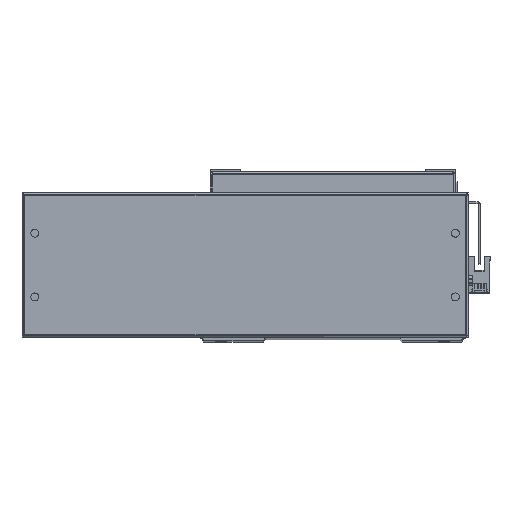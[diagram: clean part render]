
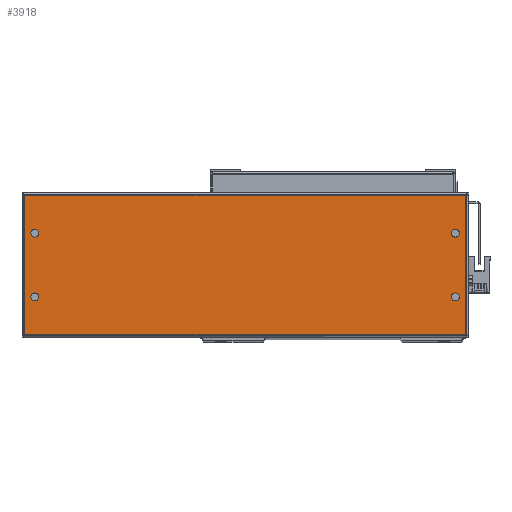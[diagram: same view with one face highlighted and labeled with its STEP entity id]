
A CAD part, top view. The second image highlights one B-rep face of the part: STEP entity #3918.
In plain terms, the highlighted planar face has unit normal (0, 0, 1) as drawn and (0, 1, 0) by its records, which use the part's own axes.
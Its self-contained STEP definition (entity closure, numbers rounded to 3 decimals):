
#108 = CIRCLE ( 'NONE', #19192, 2.5 ) ;
#545 = CARTESIAN_POINT ( 'NONE',  ( -103.446, 59., 53.3 ) ) ;
#1175 = DIRECTION ( 'NONE',  ( 0., 0., 1. ) ) ;
#2133 = DIRECTION ( 'NONE',  ( 0., 1., 0. ) ) ;
#2180 = CARTESIAN_POINT ( 'NONE',  ( 35., 59., 9.5 ) ) ;
#2510 = CARTESIAN_POINT ( 'NONE',  ( -97., 59., -10.5 ) ) ;
#2738 = CARTESIAN_POINT ( 'NONE',  ( -97., 59., 27. ) ) ;
#2877 = AXIS2_PLACEMENT_3D ( 'NONE', #23342, #10895, #28824 ) ;
#3841 = AXIS2_PLACEMENT_3D ( 'NONE', #14803, #2133, #18017 ) ;
#3918 = ADVANCED_FACE ( 'NONE', ( #33305, #27982, #22499, #7114, #22324 ), #17571, .T. ) ;
#4228 = ORIENTED_EDGE ( 'NONE', *, *, #32698, .F. ) ;
#4271 = ORIENTED_EDGE ( 'NONE', *, *, #20016, .T. ) ;
#4412 = ORIENTED_EDGE ( 'NONE', *, *, #18490, .T. ) ;
#4739 = CARTESIAN_POINT ( 'NONE',  ( 173.3, 59., 53.3 ) ) ;
#5275 = ORIENTED_EDGE ( 'NONE', *, *, #7933, .F. ) ;
#5397 = EDGE_LOOP ( 'NONE', ( #5275, #10579 ) ) ;
#5904 = VERTEX_POINT ( 'NONE', #17826 ) ;
#6469 = LINE ( 'NONE', #545, #18000 ) ;
#6557 = VECTOR ( 'NONE', #10893, 1000. ) ;
#6676 = CARTESIAN_POINT ( 'NONE',  ( 167., 59., 27. ) ) ;
#6896 = DIRECTION ( 'NONE',  ( 0., 1., 0. ) ) ;
#7114 = FACE_BOUND ( 'NONE', #14667, .T. ) ;
#7346 = ORIENTED_EDGE ( 'NONE', *, *, #30987, .T. ) ;
#7643 = EDGE_LOOP ( 'NONE', ( #33803, #4228 ) ) ;
#7669 = ORIENTED_EDGE ( 'NONE', *, *, #31424, .F. ) ;
#7933 = EDGE_CURVE ( 'NONE', #27407, #14886, #15414, .T. ) ;
#8659 = EDGE_CURVE ( 'NONE', #5904, #25570, #12766, .T. ) ;
#8961 = ORIENTED_EDGE ( 'NONE', *, *, #21575, .F. ) ;
#9509 = AXIS2_PLACEMENT_3D ( 'NONE', #2180, #9535, #32987 ) ;
#9535 = DIRECTION ( 'NONE',  ( 0., 1., 0. ) ) ;
#10403 = ORIENTED_EDGE ( 'NONE', *, *, #8659, .F. ) ;
#10579 = ORIENTED_EDGE ( 'NONE', *, *, #18057, .F. ) ;
#10732 = CARTESIAN_POINT ( 'NONE',  ( 167., 59., -8. ) ) ;
#10773 = CARTESIAN_POINT ( 'NONE',  ( -103.3, 59., 53.3 ) ) ;
#10893 = DIRECTION ( 'NONE',  ( 0., 0., -1. ) ) ;
#10895 = DIRECTION ( 'NONE',  ( 0., 1., 0. ) ) ;
#11412 = CARTESIAN_POINT ( 'NONE',  ( -97., 59., 29.5 ) ) ;
#11708 = DIRECTION ( 'NONE',  ( 0., 0., 1. ) ) ;
#12217 = EDGE_CURVE ( 'NONE', #28814, #16324, #22696, .T. ) ;
#12425 = VERTEX_POINT ( 'NONE', #20772 ) ;
#12711 = CARTESIAN_POINT ( 'NONE',  ( 173.446, 59., -34.3 ) ) ;
#12766 = CIRCLE ( 'NONE', #28569, 2.5 ) ;
#13043 = DIRECTION ( 'NONE',  ( 0., 0., 1. ) ) ;
#13362 = ORIENTED_EDGE ( 'NONE', *, *, #27023, .T. ) ;
#13448 = AXIS2_PLACEMENT_3D ( 'NONE', #11412, #23870, #1175 ) ;
#14626 = CARTESIAN_POINT ( 'NONE',  ( -97., 59., 32. ) ) ;
#14667 = EDGE_LOOP ( 'NONE', ( #19596, #7669 ) ) ;
#14803 = CARTESIAN_POINT ( 'NONE',  ( -97., 59., 29.5 ) ) ;
#14886 = VERTEX_POINT ( 'NONE', #6676 ) ;
#14956 = LINE ( 'NONE', #12711, #32276 ) ;
#15377 = VERTEX_POINT ( 'NONE', #22174 ) ;
#15414 = CIRCLE ( 'NONE', #23557, 2.5 ) ;
#16324 = VERTEX_POINT ( 'NONE', #2738 ) ;
#16583 = EDGE_LOOP ( 'NONE', ( #4271, #13362, #7346, #4412 ) ) ;
#16594 = DIRECTION ( 'NONE',  ( 0., 0., 1. ) ) ;
#17571 = PLANE ( 'NONE',  #9509 ) ;
#17826 = CARTESIAN_POINT ( 'NONE',  ( 167., 59., -13. ) ) ;
#18000 = VECTOR ( 'NONE', #24425, 1000. ) ;
#18017 = DIRECTION ( 'NONE',  ( 0., 0., 1. ) ) ;
#18057 = EDGE_CURVE ( 'NONE', #14886, #27407, #22956, .T. ) ;
#18490 = EDGE_CURVE ( 'NONE', #32799, #15377, #26956, .T. ) ;
#18697 = CIRCLE ( 'NONE', #2877, 2.5 ) ;
#18995 = DIRECTION ( 'NONE',  ( 0., 1., 0. ) ) ;
#19014 = EDGE_CURVE ( 'NONE', #21625, #12425, #22946, .T. ) ;
#19192 = AXIS2_PLACEMENT_3D ( 'NONE', #2510, #31230, #31568 ) ;
#19333 = CARTESIAN_POINT ( 'NONE',  ( 167., 59., 29.5 ) ) ;
#19455 = VERTEX_POINT ( 'NONE', #10773 ) ;
#19596 = ORIENTED_EDGE ( 'NONE', *, *, #12217, .F. ) ;
#20016 = EDGE_CURVE ( 'NONE', #15377, #26851, #14956, .T. ) ;
#20228 = DIRECTION ( 'NONE',  ( -1., 0., 0. ) ) ;
#20772 = CARTESIAN_POINT ( 'NONE',  ( -97., 59., -13. ) ) ;
#20817 = AXIS2_PLACEMENT_3D ( 'NONE', #19333, #18995, #21547 ) ;
#21547 = DIRECTION ( 'NONE',  ( 0., 0., 1. ) ) ;
#21575 = EDGE_CURVE ( 'NONE', #25570, #5904, #18697, .T. ) ;
#21625 = VERTEX_POINT ( 'NONE', #31939 ) ;
#21678 = CARTESIAN_POINT ( 'NONE',  ( -103.3, 59., -34.3 ) ) ;
#21839 = LINE ( 'NONE', #30408, #32623 ) ;
#21847 = AXIS2_PLACEMENT_3D ( 'NONE', #24668, #6896, #11708 ) ;
#22174 = CARTESIAN_POINT ( 'NONE',  ( 173.3, 59., -34.3 ) ) ;
#22324 = FACE_OUTER_BOUND ( 'NONE', #16583, .T. ) ;
#22499 = FACE_BOUND ( 'NONE', #7643, .T. ) ;
#22696 = CIRCLE ( 'NONE', #13448, 2.5 ) ;
#22946 = CIRCLE ( 'NONE', #21847, 2.5 ) ;
#22956 = CIRCLE ( 'NONE', #20817, 2.5 ) ;
#23342 = CARTESIAN_POINT ( 'NONE',  ( 167., 59., -10.5 ) ) ;
#23557 = AXIS2_PLACEMENT_3D ( 'NONE', #31354, #26380, #13043 ) ;
#23870 = DIRECTION ( 'NONE',  ( 0., 1., 0. ) ) ;
#24020 = DIRECTION ( 'NONE',  ( 0., 1., 0. ) ) ;
#24425 = DIRECTION ( 'NONE',  ( 1., 0., 0. ) ) ;
#24668 = CARTESIAN_POINT ( 'NONE',  ( -97., 59., -10.5 ) ) ;
#25547 = CARTESIAN_POINT ( 'NONE',  ( 167., 59., 32. ) ) ;
#25570 = VERTEX_POINT ( 'NONE', #10732 ) ;
#26198 = CIRCLE ( 'NONE', #3841, 2.5 ) ;
#26380 = DIRECTION ( 'NONE',  ( 0., 1., 0. ) ) ;
#26787 = CARTESIAN_POINT ( 'NONE',  ( 173.3, 59., 53.446 ) ) ;
#26851 = VERTEX_POINT ( 'NONE', #21678 ) ;
#26956 = LINE ( 'NONE', #26787, #6557 ) ;
#27023 = EDGE_CURVE ( 'NONE', #26851, #19455, #21839, .T. ) ;
#27407 = VERTEX_POINT ( 'NONE', #25547 ) ;
#27982 = FACE_BOUND ( 'NONE', #5397, .T. ) ;
#28569 = AXIS2_PLACEMENT_3D ( 'NONE', #33788, #24020, #28992 ) ;
#28814 = VERTEX_POINT ( 'NONE', #14626 ) ;
#28824 = DIRECTION ( 'NONE',  ( 0., 0., 1. ) ) ;
#28992 = DIRECTION ( 'NONE',  ( 0., 0., 1. ) ) ;
#30408 = CARTESIAN_POINT ( 'NONE',  ( -103.3, 59., -34.446 ) ) ;
#30429 = EDGE_LOOP ( 'NONE', ( #8961, #10403 ) ) ;
#30987 = EDGE_CURVE ( 'NONE', #19455, #32799, #6469, .T. ) ;
#31230 = DIRECTION ( 'NONE',  ( 0., 1., 0. ) ) ;
#31354 = CARTESIAN_POINT ( 'NONE',  ( 167., 59., 29.5 ) ) ;
#31424 = EDGE_CURVE ( 'NONE', #16324, #28814, #26198, .T. ) ;
#31568 = DIRECTION ( 'NONE',  ( 0., 0., 1. ) ) ;
#31939 = CARTESIAN_POINT ( 'NONE',  ( -97., 59., -8. ) ) ;
#32276 = VECTOR ( 'NONE', #20228, 1000. ) ;
#32623 = VECTOR ( 'NONE', #16594, 1000. ) ;
#32698 = EDGE_CURVE ( 'NONE', #12425, #21625, #108, .T. ) ;
#32799 = VERTEX_POINT ( 'NONE', #4739 ) ;
#32987 = DIRECTION ( 'NONE',  ( 0., 0., 1. ) ) ;
#33305 = FACE_BOUND ( 'NONE', #30429, .T. ) ;
#33788 = CARTESIAN_POINT ( 'NONE',  ( 167., 59., -10.5 ) ) ;
#33803 = ORIENTED_EDGE ( 'NONE', *, *, #19014, .F. ) ;
